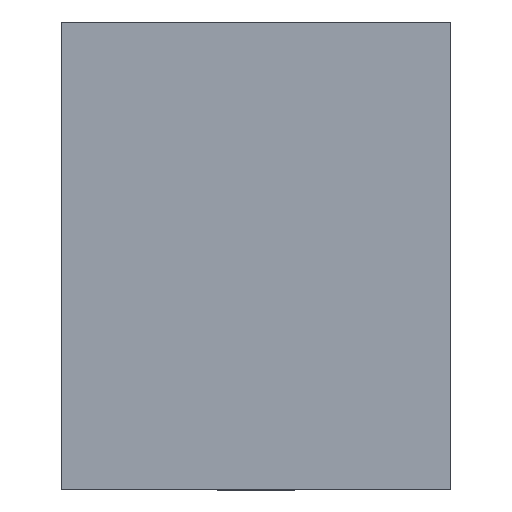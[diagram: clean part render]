
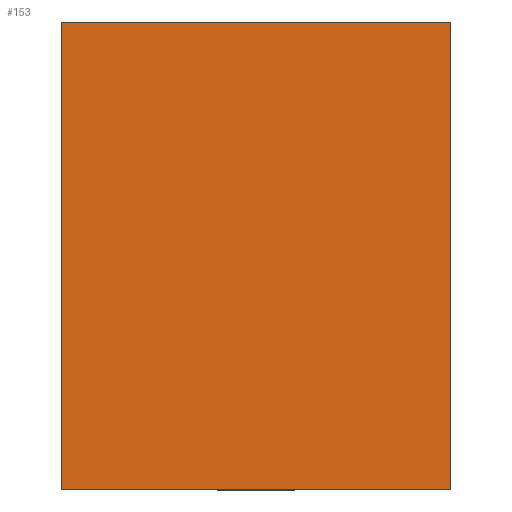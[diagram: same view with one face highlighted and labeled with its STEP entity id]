
A CAD part, top view. The second image highlights one B-rep face of the part: STEP entity #153.
In plain terms, the highlighted planar face has unit normal (0, 0, 1).
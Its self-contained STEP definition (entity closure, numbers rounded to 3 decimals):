
#24 = VERTEX_POINT('',#25);
#25 = CARTESIAN_POINT('',(-0.625,-0.75,0.8));
#40 = VERTEX_POINT('',#41);
#41 = CARTESIAN_POINT('',(-0.625,0.75,0.8));
#47 = EDGE_CURVE('',#24,#40,#48,.T.);
#48 = LINE('',#49,#50);
#49 = CARTESIAN_POINT('',(-0.625,-0.75,0.8));
#50 = VECTOR('',#51,1.);
#51 = DIRECTION('',(0.,1.,0.));
#64 = VERTEX_POINT('',#65);
#65 = CARTESIAN_POINT('',(0.625,-0.75,0.8));
#80 = VERTEX_POINT('',#81);
#81 = CARTESIAN_POINT('',(0.625,0.75,0.8));
#87 = EDGE_CURVE('',#64,#80,#88,.T.);
#88 = LINE('',#89,#90);
#89 = CARTESIAN_POINT('',(0.625,-0.75,0.8));
#90 = VECTOR('',#91,1.);
#91 = DIRECTION('',(0.,1.,0.));
#108 = EDGE_CURVE('',#24,#64,#109,.T.);
#109 = LINE('',#110,#111);
#110 = CARTESIAN_POINT('',(-0.625,-0.75,0.8));
#111 = VECTOR('',#112,1.);
#112 = DIRECTION('',(1.,0.,0.));
#130 = EDGE_CURVE('',#40,#80,#131,.T.);
#131 = LINE('',#132,#133);
#132 = CARTESIAN_POINT('',(-0.625,0.75,0.8));
#133 = VECTOR('',#134,1.);
#134 = DIRECTION('',(1.,0.,0.));
#153 = ADVANCED_FACE('',(#154),#160,.T.);
#154 = FACE_BOUND('',#155,.T.);
#155 = EDGE_LOOP('',(#156,#157,#158,#159));
#156 = ORIENTED_EDGE('',*,*,#47,.F.);
#157 = ORIENTED_EDGE('',*,*,#108,.T.);
#158 = ORIENTED_EDGE('',*,*,#87,.T.);
#159 = ORIENTED_EDGE('',*,*,#130,.F.);
#160 = PLANE('',#161);
#161 = AXIS2_PLACEMENT_3D('',#162,#163,#164);
#162 = CARTESIAN_POINT('',(-0.625,-0.75,0.8));
#163 = DIRECTION('',(0.,0.,1.));
#164 = DIRECTION('',(1.,0.,0.));
